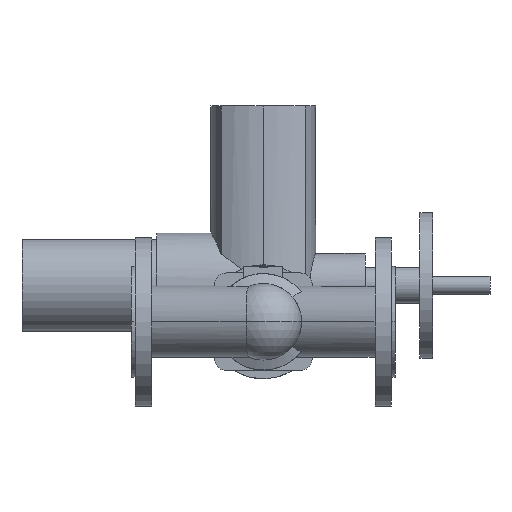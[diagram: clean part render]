
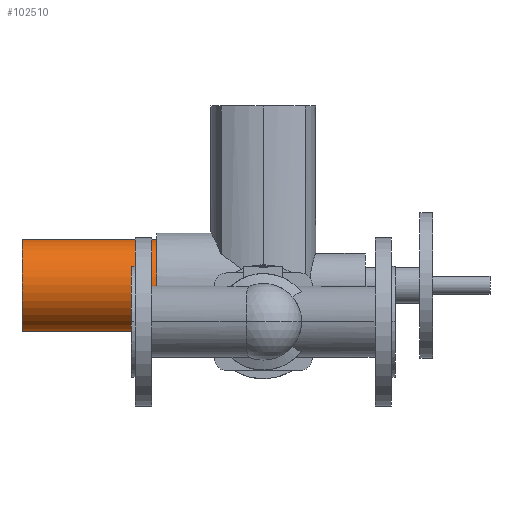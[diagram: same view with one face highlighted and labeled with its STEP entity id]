
A CAD part, front view. The second image highlights one B-rep face of the part: STEP entity #102510.
In plain terms, the highlighted cylindrical face has radius 50.5 mm (diameter 101 mm), a partial arc.
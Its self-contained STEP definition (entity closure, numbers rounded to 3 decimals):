
#57720=CARTESIAN_POINT('',(-46.,670.5,40.));
#57730=DIRECTION('',(1.,0.,0.));
#57740=DIRECTION('',(0.,0.,-1.));
#57750=AXIS2_PLACEMENT_3D('',#57720,#57730,#57740);
#57760=CYLINDRICAL_SURFACE('',#57750,50.5);
#57770=CARTESIAN_POINT('',(-46.,670.5,-10.5));
#57780=DIRECTION('',(1.,0.,0.));
#57790=VECTOR('',#57780,1.);
#57800=LINE('',#57770,#57790);
#57810=CARTESIAN_POINT('',(-120.,670.5,-10.5));
#57820=VERTEX_POINT('',#57810);
#57830=CARTESIAN_POINT('',(28.,670.5,-10.5));
#57840=VERTEX_POINT('',#57830);
#57850=SURFACE_CURVE('',#57800,(#57760,#57760),.CURVE_3D.);
#57860=EDGE_CURVE('',#57820,#57840,#57850,.T.);
#57880=CARTESIAN_POINT('',(28.,670.5,40.));
#57890=DIRECTION('',(-1.,0.,0.));
#57900=DIRECTION('',(0.,0.,-1.));
#57910=AXIS2_PLACEMENT_3D('',#57880,#57890,#57900);
#57920=CIRCLE('',#57910,50.5);
#57930=CARTESIAN_POINT('',(28.,670.5,90.5));
#57940=VERTEX_POINT('',#57930);
#57950=CARTESIAN_POINT('',(28.,670.5,-14.));
#57960=DIRECTION('',(-1.,0.,0.));
#57970=DIRECTION('',(0.,0.,-1.));
#57980=AXIS2_PLACEMENT_3D('',#57950,#57960,#57970);
#57990=PLANE('',#57980);
#58030=CARTESIAN_POINT('',(-46.,670.5,90.5));
#58040=DIRECTION('',(1.,0.,0.));
#58050=VECTOR('',#58040,1.);
#58060=LINE('',#58030,#58050);
#58070=CARTESIAN_POINT('',(-120.,670.5,90.5));
#58080=VERTEX_POINT('',#58070);
#58090=SURFACE_CURVE('',#58060,(#57760,#57760),.CURVE_3D.);
#58100=EDGE_CURVE('',#58080,#57940,#58090,.T.);
#58120=CARTESIAN_POINT('',(-120.,670.5,40.));
#58130=DIRECTION('',(-1.,0.,0.));
#58140=DIRECTION('',(0.,0.,-1.));
#58150=AXIS2_PLACEMENT_3D('',#58120,#58130,#58140);
#58160=CIRCLE('',#58150,50.5);
#58170=CARTESIAN_POINT('',(-120.,670.5,14.75));
#58180=DIRECTION('',(-1.,0.,0.));
#58190=DIRECTION('',(0.,0.,-1.));
#58200=AXIS2_PLACEMENT_3D('',#58170,#58180,#58190);
#58210=PLANE('',#58200);
#80050=SURFACE_CURVE('',#57920,(#57760,#57990),.CURVE_3D.);
#80060=EDGE_CURVE('',#57840,#57940,#80050,.T.);
#80530=SURFACE_CURVE('',#58160,(#57760,#58210),.CURVE_3D.);
#80540=EDGE_CURVE('',#57820,#58080,#80530,.T.);
#102450=ORIENTED_EDGE('',*,*,#57860,.T.);
#102460=ORIENTED_EDGE('',*,*,#80540,.F.);
#102470=ORIENTED_EDGE('',*,*,#58100,.F.);
#102480=ORIENTED_EDGE('',*,*,#80060,.T.);
#102490=EDGE_LOOP('',(#102480,#102470,#102460,#102450));
#102500=FACE_OUTER_BOUND('',#102490,.T.);
#102510=ADVANCED_FACE('',(#102500),#57760,.T.);
